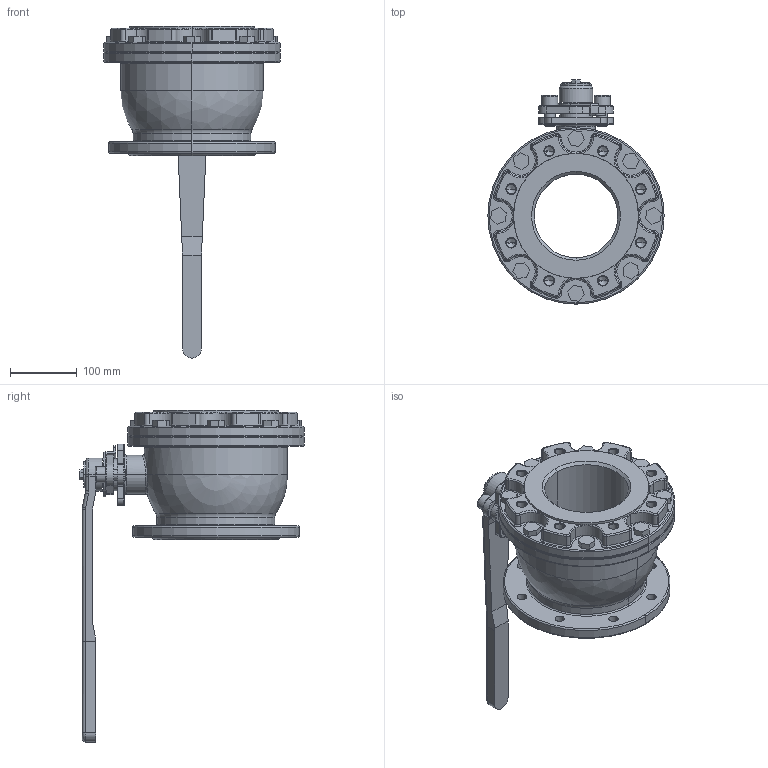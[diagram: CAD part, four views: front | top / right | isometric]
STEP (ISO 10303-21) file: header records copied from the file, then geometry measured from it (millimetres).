
FILE_DESCRIPTION (( 'STEP AP214' ), '1' );
FILE_NAME ('S15F DN125 HB.step', '2011-04-21T13:00:47', ( '' ), ( '' ), 'SwSTEP 2.0', 'SolidWorks 2011', '' );
FILE_SCHEMA (( 'AUTOMOTIVE_DESIGN' ));
Length unit declared in the file: millimetre
Products named in the file (6): Socket Head Cap Screw_DIN_DIN 912 M16 x 30 --- 30N; Hendel S15F DN125; Circlip for Shafts heavy_din_Circlip DIN 471 - 30 x 2; Eindaanslagplaat AS30 SW20; S15F KK DN125 PN16; S15F DN125 HB
Assembly tree (6 placements, depth 2):
  S15F DN125 HB
    Socket Head Cap Screw_DIN_DIN 912 M16 x 30 --- 30N  x2
    Hendel S15F DN125
    S15F KK DN125 PN16
    Eindaanslagplaat AS30 SW20
    Circlip for Shafts heavy_din_Circlip DIN 471 - 30 x 2
Bounding box: 264 x 335.7 x 497 mm (x, y, z)
Volume: 5466575.7 mm3; surface area: 453776.4 mm2
Topology: 6 solids, 6 shells, 620 faces, 1488 edges, 871 vertices
Faces by surface type: cylinder 209, plane 167, torus 157, cone 64, bspline 21, sphere 2
Entity records: 18979 total; most frequent: CARTESIAN_POINT 4042, DIRECTION 3283, ORIENTED_EDGE 2780, EDGE_CURVE 1390, AXIS2_PLACEMENT_3D 1349, VERTEX_POINT 836, CIRCLE 768, EDGE_LOOP 664
